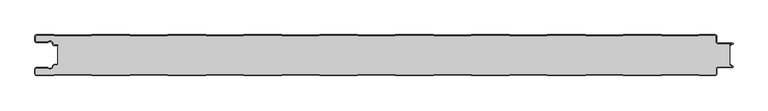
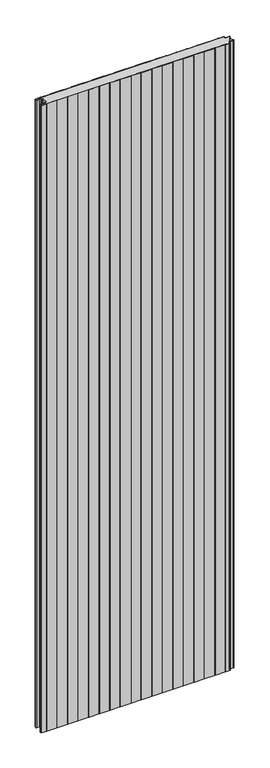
"""IFC4 building model written with IfcOpenShell, lengths in millimetres: plate geometry, ACH_Panel-Frigorífico_PUR-PIR : ACH_Panel-Frigorífico-PIR_60mm."""

from ifc_helpers import new_model, si_unit, point, frame_2d, origin, origin_with_axes, place, context, project, spatial, polyline, circle_curve, trimmed, segment, composite_curve, outline, extrude, source, transform, mapped, element, save


def plate_5119aacf(model_context):
    return source(origin(), model_context, "Body", "SweptSolid", [
        extrude(outline(composite_curve([segment(trimmed(circle_curve(frame_2d((-497.49499, -9.0180361)), 2.50501), [point((-497.49499, -11.5230461))], [point((-500.0, -9.0180361))], False, "CARTESIAN"), True, "CONTINUOUS"), segment(polyline([(-500.0, -9.0180361), (-500.0, -2.50501)]), True, "CONTINUOUS"), segment(trimmed(circle_curve(frame_2d((-497.49499, -2.50501)), 2.50501), [point((-500.0, -2.50501))], [point((-497.49499, 0.0))], False, "CARTESIAN"), True, "CONTINUOUS"), segment(polyline([(-497.49499, 0.0), (-472.2103007, 0.0), (-471.028188, -0.6012024), (-417.6391467, -0.6012024), (-416.457034, 0.0), (-360.8776353, 0.0), (-359.6955227, -0.6012024), (-306.3064814, -0.6012024), (-305.1243687, 0.0), (-249.54497, 0.0), (-248.3628573, -0.6012024), (-194.973816, -0.6012024), (-193.7917033, 0.0), (-138.2123047, 0.0), (-137.030192, -0.6012024), (-83.6411507, -0.6012024), (-82.459038, 0.0), (-26.8796393, 0.0), (-25.6975267, -0.6012024), (27.6915146, -0.6012024), (28.8736273, 0.0), (84.453026, 0.0), (85.6351387, -0.6012024), (139.02418, -0.6012024), (140.2062927, 0.0), (195.7856913, 0.0), (196.967804, -0.6012024), (250.3568453, -0.6012024), (251.538958, 0.0), (307.1183566, 0.0), (308.3004693, -0.6012024), (361.6895106, -0.6012024), (362.8716233, 0.0), (418.451022, 0.0), (419.6331347, -0.6012024), (473.022176, -0.6012024), (474.2042886, 0.0), (497.49499, 0.0)]), True, "CONTINUOUS"), segment(trimmed(circle_curve(frame_2d((497.49499, -2.50501)), 2.50501), [point((497.49499, 0.0))], [point((500.0, -2.50501))], False, "CARTESIAN"), True, "CONTINUOUS"), segment(polyline([(500.0, -2.50501), (500.0, -10.0200401)]), True, "CONTINUOUS"), segment(trimmed(circle_curve(frame_2d((502.004008, -10.0200401)), 2.004008), [point((500.0, -10.0200401))], [point((502.004008, -12.0240481))], True, "CARTESIAN"), True, "CONTINUOUS"), segment(polyline([(502.004008, -12.0240481), (523.0460922, -12.0240481)]), True, "CONTINUOUS"), segment(trimmed(circle_curve(frame_2d((523.0460922, -13.0260521)), 1.002004), [point((523.0460922, -12.0240481))], [point((523.5470942, -13.893813))], False, "CARTESIAN"), True, "CONTINUOUS"), segment(polyline([(523.5470942, -13.893813), (519.5390782, -16.2078422), (519.1390782, -15.5150218), (522.183956, -13.7570608)]), True, "CONTINUOUS"), segment(trimmed(circle_curve(frame_2d((521.933956, -13.3240481)), 0.5), [point((522.183956, -13.7570608))], [point((521.933956, -12.8240481))], True, "CARTESIAN"), True, "CONTINUOUS"), segment(polyline([(521.933956, -12.8240481), (502.004008, -12.8240481)]), True, "CONTINUOUS"), segment(trimmed(circle_curve(frame_2d((502.004008, -10.0200401)), 2.804008), [point((502.004008, -12.8240481))], [point((499.2, -10.0200401))], False, "CARTESIAN"), True, "CONTINUOUS"), segment(polyline([(499.2, -10.0200401), (499.2, -2.50501)]), True, "CONTINUOUS"), segment(trimmed(circle_curve(frame_2d((497.49499, -2.50501)), 1.70501), [point((499.2, -2.50501))], [point((497.49499, -0.8))], True, "CARTESIAN"), True, "CONTINUOUS"), segment(polyline([(497.49499, -0.8), (474.396035, -0.8), (473.2139223, -1.4012024), (419.4413883, -1.4012024), (418.2592756, -0.8), (363.0633697, -0.8), (361.881257, -1.4012024), (308.108723, -1.4012024), (306.9266103, -0.8), (251.7307044, -0.8), (250.5485917, -1.4012024), (196.7760576, -1.4012024), (195.5939449, -0.8), (140.398039, -0.8), (139.2159263, -1.4012024), (85.4433923, -1.4012024), (84.2612796, -0.8), (29.0653737, -0.8), (27.883261, -1.4012024), (-25.889273, -1.4012024), (-27.0713857, -0.8), (-82.2672916, -0.8), (-83.4494043, -1.4012024), (-137.2219384, -1.4012024), (-138.4040511, -0.8), (-193.599957, -0.8), (-194.7820696, -1.4012024), (-248.5546037, -1.4012024), (-249.7367164, -0.8), (-304.9326223, -0.8), (-306.114735, -1.4012024), (-359.887269, -1.4012024), (-361.0693817, -0.8), (-416.2652876, -0.8), (-417.4474003, -1.4012024), (-471.2199344, -1.4012024), (-472.4020471, -0.8), (-497.49499, -0.8)]), True, "CONTINUOUS"), segment(trimmed(circle_curve(frame_2d((-497.49499, -2.50501)), 1.70501), [point((-497.49499, -0.8))], [point((-499.2, -2.50501))], True, "CARTESIAN"), True, "CONTINUOUS"), segment(polyline([(-499.2, -2.50501), (-499.2, -9.0180361)]), True, "CONTINUOUS"), segment(trimmed(circle_curve(frame_2d((-497.49499, -9.0180361)), 1.70501), [point((-499.2, -9.0180361))], [point((-497.49499, -10.7230461))], True, "CARTESIAN"), True, "CONTINUOUS"), segment(polyline([(-497.49499, -10.7230461), (-481.8173283, -10.7230461)]), True, "CONTINUOUS"), segment(trimmed(circle_curve(frame_2d((-481.8173283, -9.0180361)), 1.70501), [point((-481.8173283, -10.7230461))], [point((-480.6895701, -10.2967936))], True, "CARTESIAN"), True, "CONTINUOUS"), segment(trimmed(circle_curve(frame_2d((-477.8407481, -13.5270541)), 4.307014), [point((-480.6895701, -10.2967936))], [point((-473.7934788, -12.0539686))], False, "CARTESIAN"), True, "CONTINUOUS"), segment(polyline([(-473.7934788, -12.0539686), (-473.0450711, -14.1102019)]), True, "CONTINUOUS"), segment(trimmed(circle_curve(frame_2d((-471.4428858, -13.5270541)), 1.70501), [point((-473.0450711, -14.1102019))], [point((-471.4428858, -15.2320641))], True, "CARTESIAN"), True, "CONTINUOUS"), segment(polyline([(-471.4428858, -15.2320641), (-466.4328657, -15.2320641), (-466.4328657, -16.0320641), (-471.4428858, -16.0320641)]), True, "CONTINUOUS"), segment(trimmed(circle_curve(frame_2d((-471.4428858, -13.5270541)), 2.50501), [point((-471.4428858, -16.0320641))], [point((-473.7968252, -14.383818))], False, "CARTESIAN"), True, "CONTINUOUS"), segment(polyline([(-473.7968252, -14.383818), (-474.5452329, -12.3275847)]), True, "CONTINUOUS"), segment(trimmed(circle_curve(frame_2d((-477.8407481, -13.5270541)), 3.507014), [point((-474.5452329, -12.3275847))], [point((-480.1604199, -10.8967936))], True, "CARTESIAN"), True, "CONTINUOUS"), segment(trimmed(circle_curve(frame_2d((-481.8173283, -9.0180361)), 2.50501), [point((-480.1604199, -10.8967936))], [point((-481.8173283, -11.5230461))], False, "CARTESIAN"), True, "CONTINUOUS"), segment(polyline([(-481.8173283, -11.5230461), (-497.49499, -11.5230461)]), True, "CONTINUOUS")], self_intersect=False)), origin_with_axes(), (0.0, 0.0, 1.0), 3500.0),
        extrude(outline(composite_curve([segment(trimmed(circle_curve(frame_2d((-471.4428858, -13.5270541)), 1.70501), [point((-471.4428858, -15.2320641))], [point((-473.0450711, -14.1102019))], False, "CARTESIAN"), True, "CONTINUOUS"), segment(polyline([(-473.0450711, -14.1102019), (-473.7934788, -12.0539686)]), True, "CONTINUOUS"), segment(trimmed(circle_curve(frame_2d((-477.8407481, -13.5270541)), 4.307014), [point((-473.7934788, -12.0539686))], [point((-480.6895701, -10.2967936))], True, "CARTESIAN"), True, "CONTINUOUS"), segment(trimmed(circle_curve(frame_2d((-481.8173283, -9.0180361)), 1.70501), [point((-480.6895701, -10.2967936))], [point((-481.8173283, -10.7230461))], False, "CARTESIAN"), True, "CONTINUOUS"), segment(polyline([(-481.8173283, -10.7230461), (-497.49499, -10.7230461)]), True, "CONTINUOUS"), segment(trimmed(circle_curve(frame_2d((-497.49499, -9.0180361)), 1.70501), [point((-497.49499, -10.7230461))], [point((-499.2, -9.0180361))], False, "CARTESIAN"), True, "CONTINUOUS"), segment(polyline([(-499.2, -9.0180361), (-499.2, -2.50501)]), True, "CONTINUOUS"), segment(trimmed(circle_curve(frame_2d((-497.49499, -2.50501)), 1.70501), [point((-499.2, -2.50501))], [point((-497.49499, -0.8))], False, "CARTESIAN"), True, "CONTINUOUS"), segment(polyline([(-497.49499, -0.8), (-472.4020471, -0.8), (-471.2199344, -1.4012024), (-417.4474003, -1.4012024), (-416.2652876, -0.8), (-361.0693817, -0.8), (-359.887269, -1.4012024), (-306.114735, -1.4012024), (-304.9326223, -0.8), (-249.7367164, -0.8), (-248.5546037, -1.4012024), (-194.7820696, -1.4012024), (-193.599957, -0.8), (-138.4040511, -0.8), (-137.2219384, -1.4012024), (-83.4494043, -1.4012024), (-82.2672916, -0.8), (-27.0713857, -0.8), (-25.889273, -1.4012024), (27.883261, -1.4012024), (29.0653737, -0.8), (84.2612796, -0.8), (85.4433923, -1.4012024), (139.2159263, -1.4012024), (140.398039, -0.8), (195.5939449, -0.8), (196.7760576, -1.4012024), (250.5485917, -1.4012024), (251.7307044, -0.8), (306.9266103, -0.8), (308.108723, -1.4012024), (361.881257, -1.4012024), (363.0633697, -0.8), (418.2592756, -0.8), (419.4413883, -1.4012024), (473.2139223, -1.4012024), (474.396035, -0.8), (497.49499, -0.8)]), True, "CONTINUOUS"), segment(trimmed(circle_curve(frame_2d((497.49499, -2.50501)), 1.70501), [point((497.49499, -0.8))], [point((499.2, -2.50501))], False, "CARTESIAN"), True, "CONTINUOUS"), segment(polyline([(499.2, -2.50501), (499.2, -10.0200401)]), True, "CONTINUOUS"), segment(trimmed(circle_curve(frame_2d((502.004008, -10.0200401)), 2.804008), [point((499.2, -10.0200401))], [point((502.004008, -12.8240481))], True, "CARTESIAN"), True, "CONTINUOUS"), segment(polyline([(502.004008, -12.8240481), (521.933956, -12.8240481)]), True, "CONTINUOUS"), segment(trimmed(circle_curve(frame_2d((521.933956, -13.3240481)), 0.5), [point((521.933956, -12.8240481))], [point((522.183956, -13.7570608))], False, "CARTESIAN"), True, "CONTINUOUS"), segment(polyline([(522.183956, -13.7570608), (519.1390782, -15.5150218), (519.1390782, -44.4849782), (522.183956, -46.2429392)]), True, "CONTINUOUS"), segment(trimmed(circle_curve(frame_2d((521.933956, -46.6759519)), 0.5), [point((522.183956, -46.2429392))], [point((521.933956, -47.1759519))], False, "CARTESIAN"), True, "CONTINUOUS"), segment(polyline([(521.933956, -47.1759519), (502.004008, -47.1759519)]), True, "CONTINUOUS"), segment(trimmed(circle_curve(frame_2d((502.004008, -49.9799599)), 2.804008), [point((502.004008, -47.1759519))], [point((499.2, -49.9799599))], True, "CARTESIAN"), True, "CONTINUOUS"), segment(polyline([(499.2, -49.9799599), (499.2, -57.49499)]), True, "CONTINUOUS"), segment(trimmed(circle_curve(frame_2d((497.49499, -57.49499)), 1.70501), [point((499.2, -57.49499))], [point((497.49499, -59.2))], False, "CARTESIAN"), True, "CONTINUOUS"), segment(polyline([(497.49499, -59.2), (474.396035, -59.2), (473.2139223, -58.5987976), (419.4413883, -58.5987976), (418.2592756, -59.2), (363.0633697, -59.2), (361.881257, -58.5987976), (308.108723, -58.5987976), (306.9266103, -59.2), (251.7307044, -59.2), (250.5485917, -58.5987976), (196.7760576, -58.5987976), (195.5939449, -59.2), (140.398039, -59.2), (139.2159263, -58.5987976), (85.4433923, -58.5987976), (84.2612796, -59.2), (29.0653737, -59.2), (27.883261, -58.5987976), (-25.889273, -58.5987976), (-27.0713857, -59.2), (-82.2672916, -59.2), (-83.4494043, -58.5987976), (-137.2219384, -58.5987976), (-138.4040511, -59.2), (-193.599957, -59.2), (-194.7820696, -58.5987976), (-248.5546037, -58.5987976), (-249.7367164, -59.2), (-304.9326223, -59.2), (-306.114735, -58.5987976), (-359.887269, -58.5987976), (-361.0693817, -59.2), (-416.2652876, -59.2), (-417.4474003, -58.5987976), (-471.2199344, -58.5987976), (-472.4020471, -59.2), (-497.49499, -59.2)]), True, "CONTINUOUS"), segment(trimmed(circle_curve(frame_2d((-497.49499, -57.49499)), 1.70501), [point((-497.49499, -59.2))], [point((-499.2, -57.49499))], False, "CARTESIAN"), True, "CONTINUOUS"), segment(polyline([(-499.2, -57.49499), (-499.2, -50.9819639)]), True, "CONTINUOUS"), segment(trimmed(circle_curve(frame_2d((-497.49499, -50.9819639)), 1.70501), [point((-499.2, -50.9819639))], [point((-497.49499, -49.2769539))], False, "CARTESIAN"), True, "CONTINUOUS"), segment(polyline([(-497.49499, -49.2769539), (-481.8173283, -49.2769539)]), True, "CONTINUOUS"), segment(trimmed(circle_curve(frame_2d((-481.8173283, -50.9819639)), 1.70501), [point((-481.8173283, -49.2769539))], [point((-480.6895701, -49.7032064))], False, "CARTESIAN"), True, "CONTINUOUS"), segment(trimmed(circle_curve(frame_2d((-477.8407481, -46.4729459)), 4.307014), [point((-480.6895701, -49.7032064))], [point((-473.7934788, -47.9460314))], True, "CARTESIAN"), True, "CONTINUOUS"), segment(polyline([(-473.7934788, -47.9460314), (-473.0450711, -45.8897981)]), True, "CONTINUOUS"), segment(trimmed(circle_curve(frame_2d((-471.4428858, -46.4729459)), 1.70501), [point((-473.0450711, -45.8897981))], [point((-471.4428858, -44.7679359))], False, "CARTESIAN"), True, "CONTINUOUS"), segment(polyline([(-471.4428858, -44.7679359), (-466.4328657, -44.7679359), (-466.4328657, -15.2320641), (-471.4428858, -15.2320641)]), True, "CONTINUOUS")], self_intersect=False)), origin_with_axes(), (0.0, 0.0, 1.0), 3500.0),
        extrude(outline(composite_curve([segment(polyline([(-497.49499, -48.4769539), (-481.8173283, -48.4769539)]), True, "CONTINUOUS"), segment(trimmed(circle_curve(frame_2d((-481.8173283, -50.9819639)), 2.50501), [point((-481.8173283, -48.4769539))], [point((-480.1604199, -49.1032064))], False, "CARTESIAN"), True, "CONTINUOUS"), segment(trimmed(circle_curve(frame_2d((-477.8407481, -46.4729459)), 3.507014), [point((-480.1604199, -49.1032064))], [point((-474.5452329, -47.6724153))], True, "CARTESIAN"), True, "CONTINUOUS"), segment(polyline([(-474.5452329, -47.6724153), (-473.7968252, -45.616182)]), True, "CONTINUOUS"), segment(trimmed(circle_curve(frame_2d((-471.4428858, -46.4729459)), 2.50501), [point((-473.7968252, -45.616182))], [point((-471.4428858, -43.9679359))], False, "CARTESIAN"), True, "CONTINUOUS"), segment(polyline([(-471.4428858, -43.9679359), (-466.4328657, -43.9679359), (-466.4328657, -44.7679359), (-471.4428858, -44.7679359)]), True, "CONTINUOUS"), segment(trimmed(circle_curve(frame_2d((-471.4428858, -46.4729459)), 1.70501), [point((-471.4428858, -44.7679359))], [point((-473.0450711, -45.8897981))], True, "CARTESIAN"), True, "CONTINUOUS"), segment(polyline([(-473.0450711, -45.8897981), (-473.7934788, -47.9460314)]), True, "CONTINUOUS"), segment(trimmed(circle_curve(frame_2d((-477.8407481, -46.4729459)), 4.307014), [point((-473.7934788, -47.9460314))], [point((-480.6895701, -49.7032064))], False, "CARTESIAN"), True, "CONTINUOUS"), segment(trimmed(circle_curve(frame_2d((-481.8173283, -50.9819639)), 1.70501), [point((-480.6895701, -49.7032064))], [point((-481.8173283, -49.2769539))], True, "CARTESIAN"), True, "CONTINUOUS"), segment(polyline([(-481.8173283, -49.2769539), (-497.49499, -49.2769539)]), True, "CONTINUOUS"), segment(trimmed(circle_curve(frame_2d((-497.49499, -50.9819639)), 1.70501), [point((-497.49499, -49.2769539))], [point((-499.2, -50.9819639))], True, "CARTESIAN"), True, "CONTINUOUS"), segment(polyline([(-499.2, -50.9819639), (-499.2, -57.49499)]), True, "CONTINUOUS"), segment(trimmed(circle_curve(frame_2d((-497.49499, -57.49499)), 1.70501), [point((-499.2, -57.49499))], [point((-497.49499, -59.2))], True, "CARTESIAN"), True, "CONTINUOUS"), segment(polyline([(-497.49499, -59.2), (-472.4020471, -59.2), (-471.2199344, -58.5987976), (-417.4474003, -58.5987976), (-416.2652876, -59.2), (-361.0693817, -59.2), (-359.887269, -58.5987976), (-306.114735, -58.5987976), (-304.9326223, -59.2), (-249.7367164, -59.2), (-248.5546037, -58.5987976), (-194.7820696, -58.5987976), (-193.599957, -59.2), (-138.4040511, -59.2), (-137.2219384, -58.5987976), (-83.4494043, -58.5987976), (-82.2672916, -59.2), (-27.0713857, -59.2), (-25.889273, -58.5987976), (27.883261, -58.5987976), (29.0653737, -59.2), (84.2612796, -59.2), (85.4433923, -58.5987976), (139.2159263, -58.5987976), (140.398039, -59.2), (195.5939449, -59.2), (196.7760576, -58.5987976), (250.5485917, -58.5987976), (251.7307044, -59.2), (306.9266103, -59.2), (308.108723, -58.5987976), (361.881257, -58.5987976), (363.0633697, -59.2), (418.2592756, -59.2), (419.4413883, -58.5987976), (473.2139223, -58.5987976), (474.396035, -59.2), (497.49499, -59.2)]), True, "CONTINUOUS"), segment(trimmed(circle_curve(frame_2d((497.49499, -57.49499)), 1.70501), [point((497.49499, -59.2))], [point((499.2, -57.49499))], True, "CARTESIAN"), True, "CONTINUOUS"), segment(polyline([(499.2, -57.49499), (499.2, -49.9799599)]), True, "CONTINUOUS"), segment(trimmed(circle_curve(frame_2d((502.004008, -49.9799599)), 2.804008), [point((499.2, -49.9799599))], [point((502.004008, -47.1759519))], False, "CARTESIAN"), True, "CONTINUOUS"), segment(polyline([(502.004008, -47.1759519), (521.933956, -47.1759519)]), True, "CONTINUOUS"), segment(trimmed(circle_curve(frame_2d((521.933956, -46.6759519)), 0.5), [point((521.933956, -47.1759519))], [point((522.183956, -46.2429392))], True, "CARTESIAN"), True, "CONTINUOUS"), segment(polyline([(522.183956, -46.2429392), (519.1390782, -44.4849782), (519.5390782, -43.7921578), (523.5470942, -46.106187)]), True, "CONTINUOUS"), segment(trimmed(circle_curve(frame_2d((523.0460922, -46.9739479)), 1.002004), [point((523.5470942, -46.106187))], [point((523.0460922, -47.9759519))], False, "CARTESIAN"), True, "CONTINUOUS"), segment(polyline([(523.0460922, -47.9759519), (502.004008, -47.9759519)]), True, "CONTINUOUS"), segment(trimmed(circle_curve(frame_2d((502.004008, -49.9799599)), 2.004008), [point((502.004008, -47.9759519))], [point((500.0, -49.9799599))], True, "CARTESIAN"), True, "CONTINUOUS"), segment(polyline([(500.0, -49.9799599), (500.0, -57.49499)]), True, "CONTINUOUS"), segment(trimmed(circle_curve(frame_2d((497.49499, -57.49499)), 2.50501), [point((500.0, -57.49499))], [point((497.49499, -60.0))], False, "CARTESIAN"), True, "CONTINUOUS"), segment(polyline([(497.49499, -60.0), (474.2042886, -60.0), (473.022176, -59.3987976), (419.6331347, -59.3987976), (418.451022, -60.0), (362.8716233, -60.0), (361.6895106, -59.3987976), (308.3004693, -59.3987976), (307.1183566, -60.0), (251.538958, -60.0), (250.3568453, -59.3987976), (196.967804, -59.3987976), (195.7856913, -60.0), (140.2062927, -60.0), (139.02418, -59.3987976), (85.6351387, -59.3987976), (84.453026, -60.0), (28.8736273, -60.0), (27.6915146, -59.3987976), (-25.6975267, -59.3987976), (-26.8796393, -60.0), (-82.459038, -60.0), (-83.6411507, -59.3987976), (-137.030192, -59.3987976), (-138.2123047, -60.0), (-193.7917033, -60.0), (-194.973816, -59.3987976), (-248.3628573, -59.3987976), (-249.54497, -60.0), (-305.1243687, -60.0), (-306.3064814, -59.3987976), (-359.6955227, -59.3987976), (-360.8776353, -60.0), (-416.457034, -60.0), (-417.6391467, -59.3987976), (-471.028188, -59.3987976), (-472.2103007, -60.0), (-497.49499, -60.0)]), True, "CONTINUOUS"), segment(trimmed(circle_curve(frame_2d((-497.49499, -57.49499)), 2.50501), [point((-497.49499, -60.0))], [point((-500.0, -57.49499))], False, "CARTESIAN"), True, "CONTINUOUS"), segment(polyline([(-500.0, -57.49499), (-500.0, -50.9819639)]), True, "CONTINUOUS"), segment(trimmed(circle_curve(frame_2d((-497.49499, -50.9819639)), 2.50501), [point((-500.0, -50.9819639))], [point((-497.49499, -48.4769539))], False, "CARTESIAN"), True, "CONTINUOUS")], self_intersect=False)), origin_with_axes(), (0.0, 0.0, 1.0), 3500.0),
    ])


if __name__ == "__main__":
    model = new_model("IFC4")
    model_context = context("Model", 3, world=origin())
    ifc_project = project(units=[si_unit("LENGTHUNIT", "METRE", prefix="MILLI")], contexts=[model_context])
    site = spatial("IfcSite", under=ifc_project)
    building = spatial("IfcBuilding", under=site)
    placement = place(None, origin())
    plate_shape = plate_5119aacf(model_context)
    element("IfcPlate", 1, ObjectType="ACH_Panel-Frigorífico_PUR-PIR : ACH_Panel-Frigorífico-PIR_60mm", at=placement, inside=building, context=model_context, shape_type="MappedRepresentation", body=[
        mapped(plate_shape, transform((0.0, 0.0, 0.0), x_axis=(1.0, 0.0, 0.0), y_axis=(0.0, 1.0, 0.0), z_axis=(0.0, 0.0, 1.0))),
    ])
    save(model, "model.ifc")
